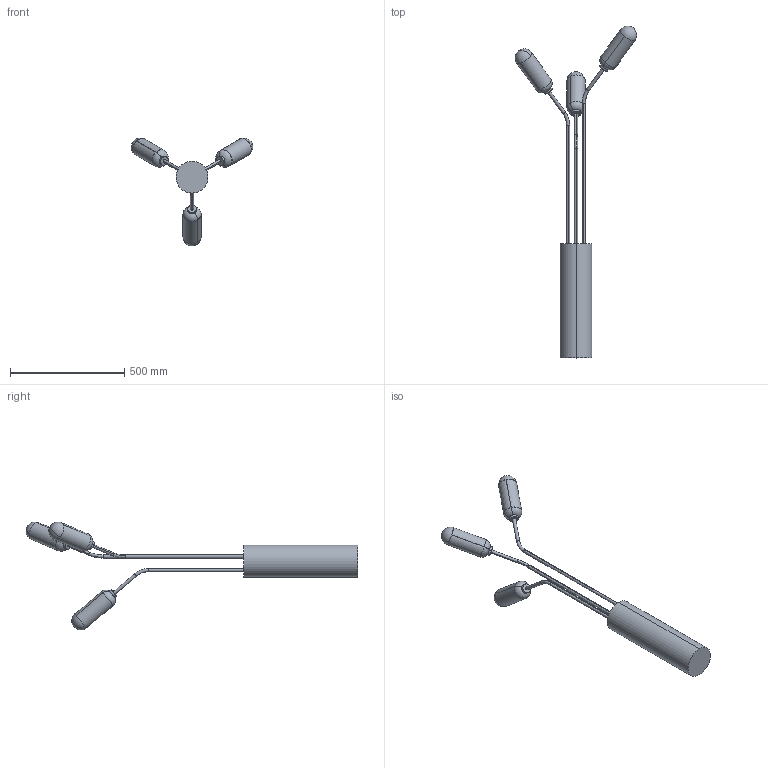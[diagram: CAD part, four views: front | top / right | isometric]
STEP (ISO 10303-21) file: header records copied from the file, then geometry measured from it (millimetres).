
FILE_DESCRIPTION (( 'STEP AP214' ), '1' );
FILE_NAME ('LARI_P1333.STEP', '2024-09-18T08:54:08', ( '' ), ( '' ), 'SwSTEP 2.0', 'SolidWorks 2018', '' );
FILE_SCHEMA (( 'AUTOMOTIVE_DESIGN' ));
Length unit declared in the file: millimetre
Products named in the file (1): LARI_P1333
Bounding box: 533.73 x 1454.49 x 473.03 mm (x, y, z)
Volume: 9112413 mm3; surface area: 765924.5 mm2
Topology: 13 solids, 16 shells, 94 faces, 188 edges, 114 vertices
Faces by surface type: cylinder 38, plane 26, torus 18, sphere 12
Entity records: 3588 total; most frequent: DIRECTION 504, CARTESIAN_POINT 385, ORIENTED_EDGE 352, AXIS2_PLACEMENT_3D 233, EDGE_CURVE 176, CIRCLE 138, VERTEX_POINT 114, UNCERTAINTY_MEASURE_WITH_UNIT 109
